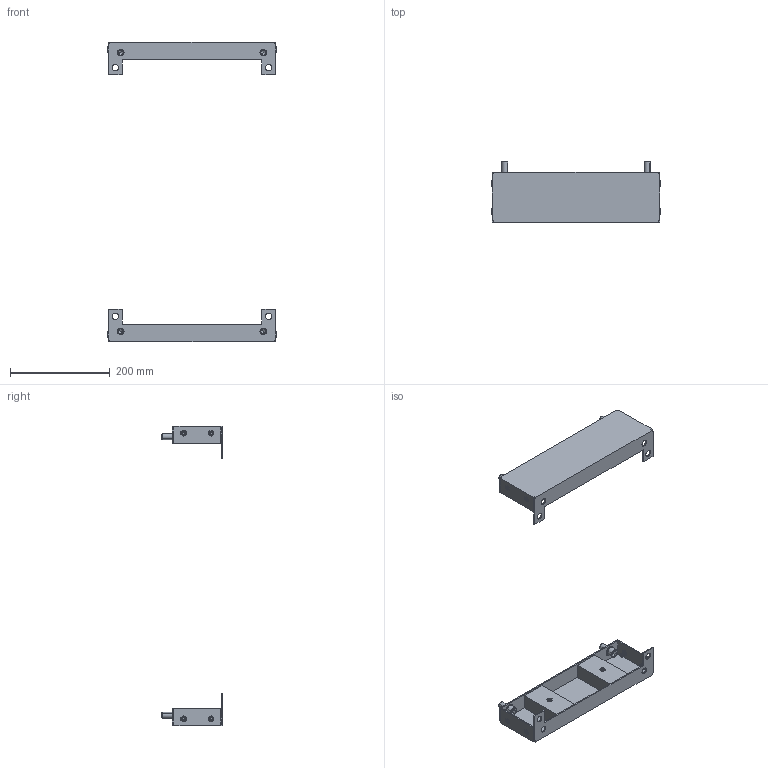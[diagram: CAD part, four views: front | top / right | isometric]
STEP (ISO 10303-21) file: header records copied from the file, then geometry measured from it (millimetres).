
FILE_DESCRIPTION (( 'STEP AP203' ), '1' );
FILE_NAME ('R6PLB40 H=600.STEP', '2025-05-16T11:39:39', ( '' ), ( '' ), 'SwSTEP 2.0', 'SolidWorks 2022', '' );
FILE_SCHEMA (( 'CONFIG_CONTROL_DESIGN' ));
Length unit declared in the file: millimetre
Products named in the file (8): M12x25 DIN 912 HX cl.8,8 Zinc_stright; RB.3309.00.02.0 simple; 12 DIN 6798 A Zinc; RB.3309.00.01.0 simple_-02; M6 MGS-MPO-0635_thread; M6 MGS-MPO-0635_straight; RB.3309.00.00.0 СБ simple_-02; R6PLB40 H=600
Assembly tree (19 placements, depth 3):
  R6PLB40 H=600
    RB.3309.00.00.0 СБ simple_-02  x2
      RB.3309.00.01.0 simple_-02
      M6 MGS-MPO-0635_thread
      RB.3309.00.02.0 simple
      M6 MGS-MPO-0635_straight
    12 DIN 6798 A Zinc  x4
    M12x25 DIN 912 HX cl.8,8 Zinc_stright  x4
Bounding box: 336.7 x 121.5 x 600 mm (x, y, z)
Volume: 435300.7 mm3; surface area: 360525.4 mm2
Topology: 26 solids, 26 shells, 1568 faces, 4128 edges, 2388 vertices
Faces by surface type: plane 640, cylinder 544, bspline 168, sphere 144, cone 40, torus 32
Entity records: 15002 total; most frequent: CARTESIAN_POINT 5755, ORIENTED_EDGE 1768, DIRECTION 1539, EDGE_CURVE 884, VERTEX_POINT 558, LINE 533, VECTOR 533, AXIS2_PLACEMENT_3D 503
